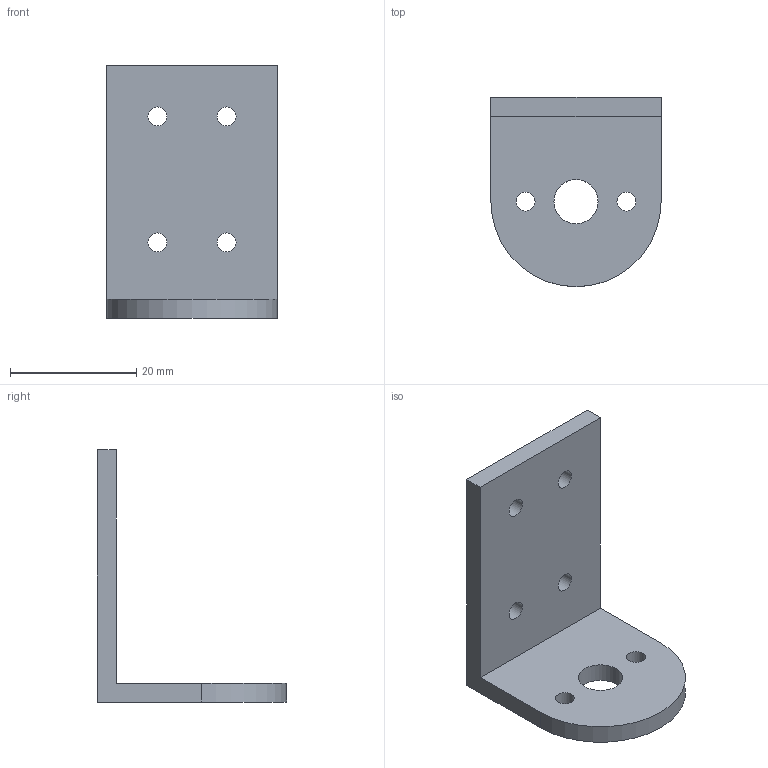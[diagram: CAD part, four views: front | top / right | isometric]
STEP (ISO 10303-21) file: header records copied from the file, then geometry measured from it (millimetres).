
FILE_DESCRIPTION(/* description */ ('STEP AP242 Edition 2','CAx-IF Rec.Pracs.---Representation and Presentation of Product Manufacturing Information (PMI)---4.0---2014-10-13','CAx-IF Rec.Pracs.---3D Tessellated Geometry---0.4---2014-09-14','2;1','CAx-IF Rec.Pracs.---User Defined Attributes---1.5---2016-08-15'),/* implementation_level */ '2;1');
FILE_NAME(/* name */ 'Assem2h - MotorBracket (1) (3)',/* time_stamp */ '2025-12-01T14:50:25Z',/* author */ (''),/* organization */ (''),/* preprocessor_version */ 'ST-DEVELOPER v20',/* originating_system */ 'ONSHAPE BY PTC INC, 1.207',/* authorisation */ ' ');
FILE_SCHEMA (('AP242_MANAGED_MODEL_BASED_3D_ENGINEERING_MIM_LF { 1 0 10303 442 3 1 4 }'));
Length unit declared in the file: metre
Products named in the file (1): MotorBracket (1)
Bounding box: 27 x 30 x 40 mm (x, y, z)
Volume: 4949.6 mm3; surface area: 4064.6 mm2
Topology: 1 solids, 1 shells, 15 faces, 46 edges, 33 vertices
Faces by surface type: cylinder 8, plane 7
Full cylindrical faces by diameter (mm): 3 x6, 7 x1
Entity records: 484 total; most frequent: DIRECTION 80, CARTESIAN_POINT 74, ORIENTED_EDGE 64, EDGE_LOOP 36, FACE_BOUND 36, EDGE_CURVE 32, AXIS2_PLACEMENT_3D 32, VERTEX_POINT 26
